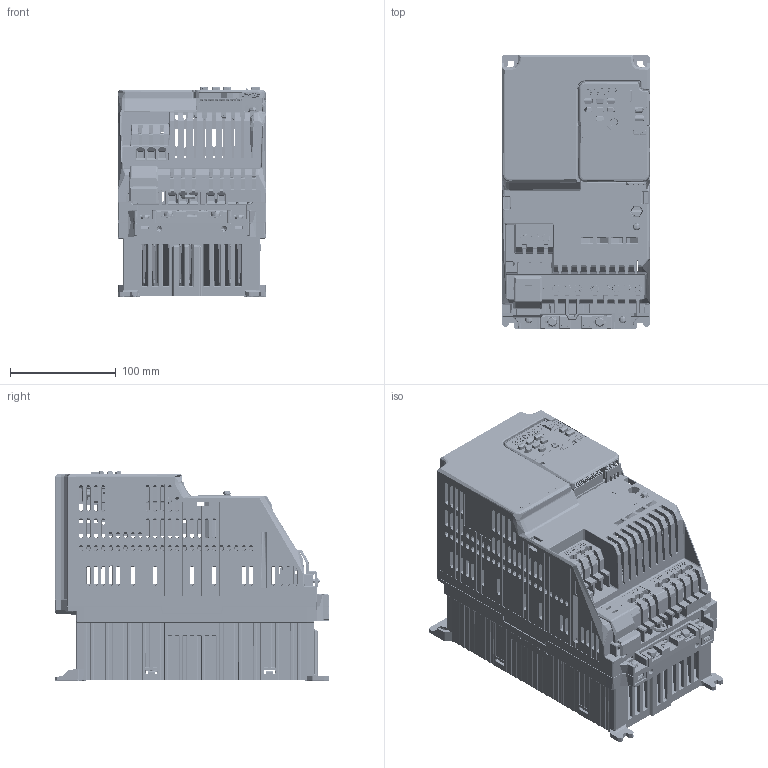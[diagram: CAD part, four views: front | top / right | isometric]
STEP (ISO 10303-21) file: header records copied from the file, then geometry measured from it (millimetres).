
FILE_DESCRIPTION((''),'2;1');
FILE_NAME('GA500_EMC_FRAME_V5-A_ASM','2019-03-08T',('jam'),('YASKAWA ELECTRIC CORCORATION'),'PRO/ENGINEER BY PARAMETRIC TECHNOLOGY CORPORATION, 2015440','PRO/ENGINEER BY PARAMETRIC TECHNOLOGY CORPORATION, 2015440','');
FILE_SCHEMA(('CONFIG_CONTROL_DESIGN'));
Products named in the file (137): 400-104-200_AF0_1; 400-107-683_AF0_1; SCAT41027-B_1; 06025VG-24S-BA-YY_02_AF0_1; 400-112-412_AF0_1; 400-104-276-01B-1_AF0_1; MKDS10HV_3-ZB-10P16_AF1_1; MKDS10HV_5-ZB-10P16_AF0_1; ETP761670_AF0_ASM_1_ASM; SCAT41285_M4X12_TOGARISAKIK_AF4; 400-104-309-01C-2_AF0_1; MKDS10HV_3-ZB-10P16_AF0_1; ETX731450_AF0_ASM_1_ASM; 400-112-392_AF1_1; HSR-M4-7P4_1; 400-112-392_AF0_ASM_1_ASM; SCAT41285_M4X12_TOGARISAKIKARI_; 400-104-023-01F-5_1; 95003-2884_1; B12B-PASK-1_1; MANIFOLD_SOLID_BREP_597948; MANIFOLD_SOLID_BREP_598099; MANIFOLD_SOLID_BREP_598250; MANIFOLD_SOLID_BREP_598401; MANIFOLD_SOLID_BREP_598554; MANIFOLD_SOLID_BREP_598705; MANIFOLD_SOLID_BREP_598856; MANIFOLD_SOLID_BREP_599007; MANIFOLD_SOLID_BREP_599158; MANIFOLD_SOLID_BREP_599309; MANIFOLD_SOLID_BREP_599460; 1734753-1_AF1_1_ASM; MANIFOLD_SOLID_BREP_609379; MANIFOLD_SOLID_BREP_609563; MANIFOLD_SOLID_BREP_609747; MANIFOLD_SOLID_BREP_609931; MANIFOLD_SOLID_BREP_610115; MANIFOLD_SOLID_BREP_610266; MANIFOLD_SOLID_BREP_610417; MANIFOLD_SOLID_BREP_610568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
Assembly tree (138 placements, depth 6):
  GA500_EMC_FRAME_V5-A_ASM
    KIPR-GA50_Q_2030_ASM_1_ASM
      400-104-200_AF0_1
      400-107-683_AF0_1
      SCAT41027-B_1  x2
      06025VG-24S-BA-YY_02_AF0_1
      400-112-412_AF0_1
      ETP761670_AF0_ASM_1_ASM
        400-104-276-01B-1_AF0_1
        MKDS10HV_3-ZB-10P16_AF1_1
        MKDS10HV_5-ZB-10P16_AF0_1
      SCAT41285_M4X12_TOGARISAKIK_AF4
      ETX731450_AF0_ASM_1_ASM
        400-104-309-01C-2_AF0_1
        MKDS10HV_3-ZB-10P16_AF0_1
      400-112-392_AF0_ASM_1_ASM
        400-112-392_AF1_1
        HSR-M4-7P4_1
      SCAT41285_M4X12_TOGARISAKIKARI_  x2
      KTC750050-SXXXX_ASM_1_ASM
        400-104-023-01F-5_1
        95003-2884_1
        B12B-PASK-1_1
        1734753-1_AF1_1_ASM
          MANIFOLD_SOLID_BREP_597948
          MANIFOLD_SOLID_BREP_598099
          MANIFOLD_SOLID_BREP_598250
          MANIFOLD_SOLID_BREP_598401
          MANIFOLD_SOLID_BREP_598554
          MANIFOLD_SOLID_BREP_598705
          MANIFOLD_SOLID_BREP_598856
          MANIFOLD_SOLID_BREP_599007
          MANIFOLD_SOLID_BREP_599158
          MANIFOLD_SOLID_BREP_599309
          MANIFOLD_SOLID_BREP_599460
        DHB-PD20-S131N-4P9_AF1_1_ASM
          MANIFOLD_SOLID_BREP_609379
          MANIFOLD_SOLID_BREP_609563
          MANIFOLD_SOLID_BREP_609747
          MANIFOLD_SOLID_BREP_609931
          MANIFOLD_SOLID_BREP_610115
          MANIFOLD_SOLID_BREP_610266
          MANIFOLD_SOLID_BREP_610417
          MANIFOLD_SOLID_BREP_610568
          MANIFOLD_SOLID_BREP_610719
          MANIFOLD_SOLID_BREP_610870
          MANIFOLD_SOLID_BREP_611021
          MANIFOLD_SOLID_BREP_611172
          MANIFOLD_SOLID_BREP_611323
          MANIFOLD_SOLID_BREP_611474
          MANIFOLD_SOLID_BREP_611625
          MANIFOLD_SOLID_BREP_611776
          MANIFOLD_SOLID_BREP_611927
          MANIFOLD_SOLID_BREP_612078
          MANIFOLD_SOLID_BREP_612229
          MANIFOLD_SOLID_BREP_612380
          MANIFOLD_SOLID_BREP_612531
          MANIFOLD_SOLID_BREP_612682
          MANIFOLD_SOLID_BREP_612833
          MANIFOLD_SOLID_BREP_612984
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Bounding box: 140.32 x 260 x 198.74 mm (x, y, z)
Topology: 121 solids, 138 shells, 21183 faces, 58096 edges, 37353 vertices
Faces by surface type: plane 13080, cylinder 4268, bspline 1584, cone 1325, torus 631, sphere 295
Entity records: 775557 total; most frequent: CARTESIAN_POINT 250810, ORIENTED_EDGE 115068, DIRECTION 99200, EDGE_CURVE 57539, VECTOR 40324, LINE 40324, VERTEX_POINT 37197, AXIS2_PLACEMENT_3D 29438
